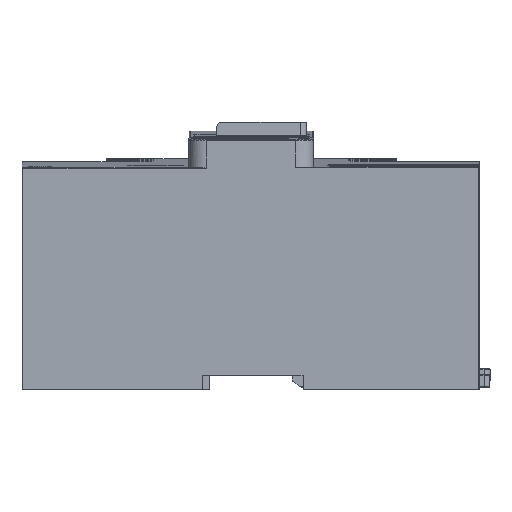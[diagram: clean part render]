
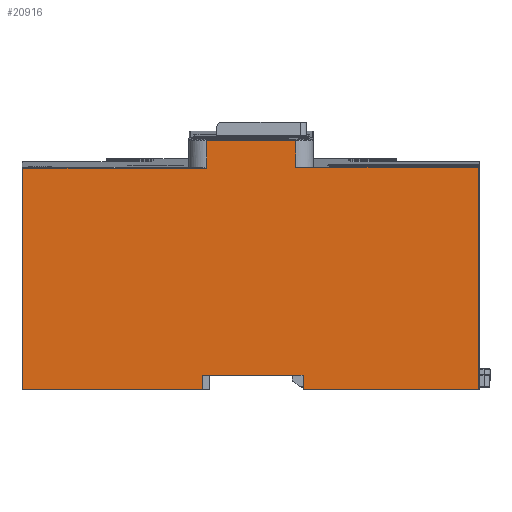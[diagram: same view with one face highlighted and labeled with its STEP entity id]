
A CAD part, left-side view. The second image highlights one B-rep face of the part: STEP entity #20916.
In plain terms, the highlighted planar face has unit normal (-1, 0, 0).
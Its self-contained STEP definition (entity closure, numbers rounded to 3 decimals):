
#14=DIRECTION('',(0.,-1.,0.));
#15=VECTOR('',#14,63.113);
#16=CARTESIAN_POINT('',(0.,67.213,0.));
#17=LINE('',#16,#15);
#18=DIRECTION('',(0.,0.,1.));
#19=VECTOR('',#18,80.003);
#20=CARTESIAN_POINT('',(0.,4.1,0.));
#21=LINE('',#20,#19);
#22=DIRECTION('',(0.,0.,1.));
#23=VECTOR('',#22,5.2);
#24=CARTESIAN_POINT('',(0.,67.213,0.));
#25=LINE('',#24,#23);
#26=DIRECTION('',(0.,1.,0.));
#27=VECTOR('',#26,36.175);
#28=CARTESIAN_POINT('',(0.,67.213,5.2));
#29=LINE('',#28,#27);
#34=DIRECTION('',(0.,0.,-1.));
#35=VECTOR('',#34,79.706);
#36=CARTESIAN_POINT('',(0.,167.919,79.706));
#37=LINE('',#36,#35);
#43=DIRECTION('',(0.,-1.,0.));
#44=VECTOR('',#43,64.532);
#45=CARTESIAN_POINT('',(0.,167.919,0.));
#46=LINE('',#45,#44);
#59=DIRECTION('',(0.,0.,1.));
#60=VECTOR('',#59,5.2);
#61=CARTESIAN_POINT('',(0.,103.387,0.));
#62=LINE('',#61,#60);
#773=DIRECTION('',(0.,1.,0.));
#774=VECTOR('',#773,65.769);
#775=CARTESIAN_POINT('',(0.,4.1,80.003));
#776=LINE('',#775,#774);
#2014=DIRECTION('',(0.,1.,0.));
#2015=VECTOR('',#2014,66.024);
#2016=CARTESIAN_POINT('',(0.,101.895,79.706));
#2017=LINE('',#2016,#2015);
#2039=DIRECTION('',(0.,0.,-1.));
#2040=VECTOR('',#2039,9.9);
#2041=CARTESIAN_POINT('',(0.,101.895,89.606));
#2042=LINE('',#2041,#2040);
#2172=DIRECTION('',(0.,0.,1.));
#2173=VECTOR('',#2172,9.603);
#2174=CARTESIAN_POINT('',(0.,69.869,80.003));
#2175=LINE('',#2174,#2173);
#2346=DIRECTION('',(0.,1.,0.));
#2347=VECTOR('',#2346,32.025);
#2348=CARTESIAN_POINT('',(0.,69.869,89.606));
#2349=LINE('',#2348,#2347);
#8547=CARTESIAN_POINT('',(0.,67.213,0.));
#16313=CARTESIAN_POINT('',(0.,4.1,0.));
#16315=VERTEX_POINT('',#16313);
#16321=VERTEX_POINT('',#8547);
#16322=CARTESIAN_POINT('',(0.,4.1,80.003));
#16323=VERTEX_POINT('',#16322);
#16325=CARTESIAN_POINT('',(0.,167.919,79.706));
#16326=CARTESIAN_POINT('',(0.,167.919,0.));
#16327=VERTEX_POINT('',#16325);
#16328=VERTEX_POINT('',#16326);
#16329=CARTESIAN_POINT('',(0.,101.895,79.706));
#16330=VERTEX_POINT('',#16329);
#16331=CARTESIAN_POINT('',(0.,101.895,
89.606));
#16332=VERTEX_POINT('',#16331);
#16333=CARTESIAN_POINT('',(0.,69.869,
89.606));
#16334=VERTEX_POINT('',#16333);
#16335=CARTESIAN_POINT('',(0.,69.869,80.003));
#16336=VERTEX_POINT('',#16335);
#16337=CARTESIAN_POINT('',(0.,67.213,5.2));
#16338=VERTEX_POINT('',#16337);
#16339=CARTESIAN_POINT('',(0.,103.387,5.2));
#16340=VERTEX_POINT('',#16339);
#16341=CARTESIAN_POINT('',(0.,103.387,0.));
#16342=VERTEX_POINT('',#16341);
#20887=CARTESIAN_POINT('',(0.,168.219,0.));
#20888=DIRECTION('',(-1.,0.,0.));
#20889=DIRECTION('',(0.,-1.,0.));
#20890=AXIS2_PLACEMENT_3D('',#20887,#20888,#20889);
#20891=PLANE('',#20890);
#20893=ORIENTED_EDGE('',*,*,#20892,.F.);
#20895=ORIENTED_EDGE('',*,*,#20894,.F.);
#20897=ORIENTED_EDGE('',*,*,#20896,.F.);
#20899=ORIENTED_EDGE('',*,*,#20898,.F.);
#20901=ORIENTED_EDGE('',*,*,#20900,.F.);
#20903=ORIENTED_EDGE('',*,*,#20902,.F.);
#20904=ORIENTED_EDGE('',*,*,#20878,.F.);
#20905=ORIENTED_EDGE('',*,*,#20867,.F.);
#20907=ORIENTED_EDGE('',*,*,#20906,.T.);
#20909=ORIENTED_EDGE('',*,*,#20908,.T.);
#20911=ORIENTED_EDGE('',*,*,#20910,.F.);
#20913=ORIENTED_EDGE('',*,*,#20912,.F.);
#20914=EDGE_LOOP('',(#20893,#20895,#20897,#20899,#20901,#20903,#20904,#20905,
#20907,#20909,#20911,#20913));
#20915=FACE_OUTER_BOUND('',#20914,.F.);
#20916=ADVANCED_FACE('',(#20915),#20891,.T.);
#20867=EDGE_CURVE('',#16321,#16315,#17,.T.);
#20878=EDGE_CURVE('',#16315,#16323,#21,.T.);
#20892=EDGE_CURVE('',#16327,#16328,#37,.T.);
#20894=EDGE_CURVE('',#16330,#16327,#2017,.T.);
#20896=EDGE_CURVE('',#16332,#16330,#2042,.T.);
#20898=EDGE_CURVE('',#16334,#16332,#2349,.T.);
#20900=EDGE_CURVE('',#16336,#16334,#2175,.T.);
#20902=EDGE_CURVE('',#16323,#16336,#776,.T.);
#20906=EDGE_CURVE('',#16321,#16338,#25,.T.);
#20908=EDGE_CURVE('',#16338,#16340,#29,.T.);
#20910=EDGE_CURVE('',#16342,#16340,#62,.T.);
#20912=EDGE_CURVE('',#16328,#16342,#46,.T.);
